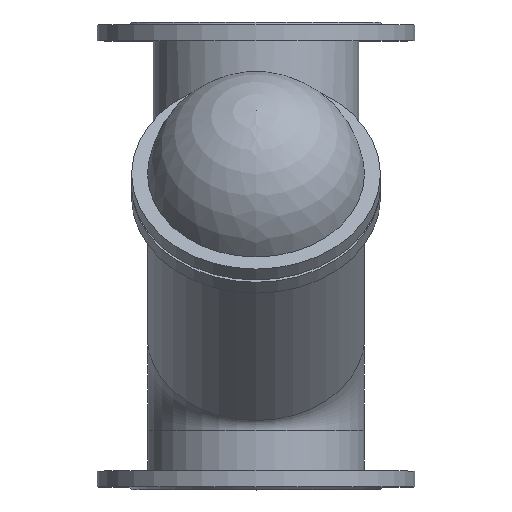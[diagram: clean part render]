
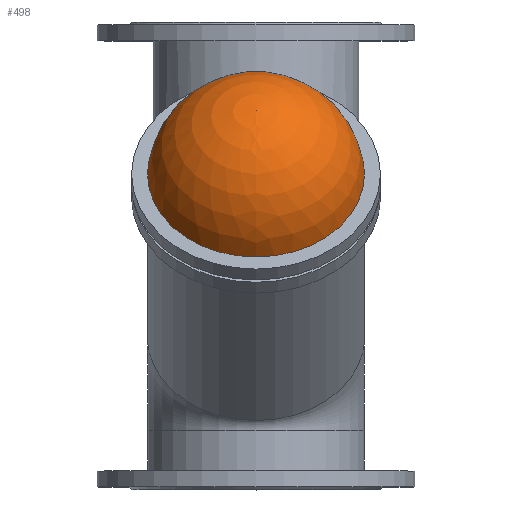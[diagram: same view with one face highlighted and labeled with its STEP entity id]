
A CAD part, top view. The second image highlights one B-rep face of the part: STEP entity #498.
In plain terms, the highlighted spherical face has radius 116.472 mm.
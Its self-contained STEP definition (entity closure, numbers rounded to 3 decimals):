
#498=ADVANCED_FACE('',(#1003),#1005,.T.);
#1003=FACE_OUTER_BOUND('',#1004,.T.);
#1004=EDGE_LOOP('',(#1191));
#1005=SPHERICAL_SURFACE('',#1006,116.472);
#1006=AXIS2_PLACEMENT_3D('',#1007,#1008,#1009);
#1007=CARTESIAN_POINT('',(0.,80.565,246.487));
#1008=DIRECTION('',(0.,0.643,0.766));
#1009=DIRECTION('',(0.,-0.766,0.643));
#1191=ORIENTED_EDGE('',*,*,#1282,.T.);
#1282=EDGE_CURVE('',#1451,#1451,#1452,.T.);
#1451=VERTEX_POINT('',#2561);
#1452=CIRCLE('',#2562,116.);
#2561=CARTESIAN_POINT('',(0.,-1.565,329.073));
#2562=AXIS2_PLACEMENT_3D('',#2563,#2564,#2565);
#2563=CARTESIAN_POINT('',(0.,87.296,254.509));
#2564=DIRECTION('',(0.,0.643,0.766));
#2565=DIRECTION('',(0.,-0.766,0.643));
